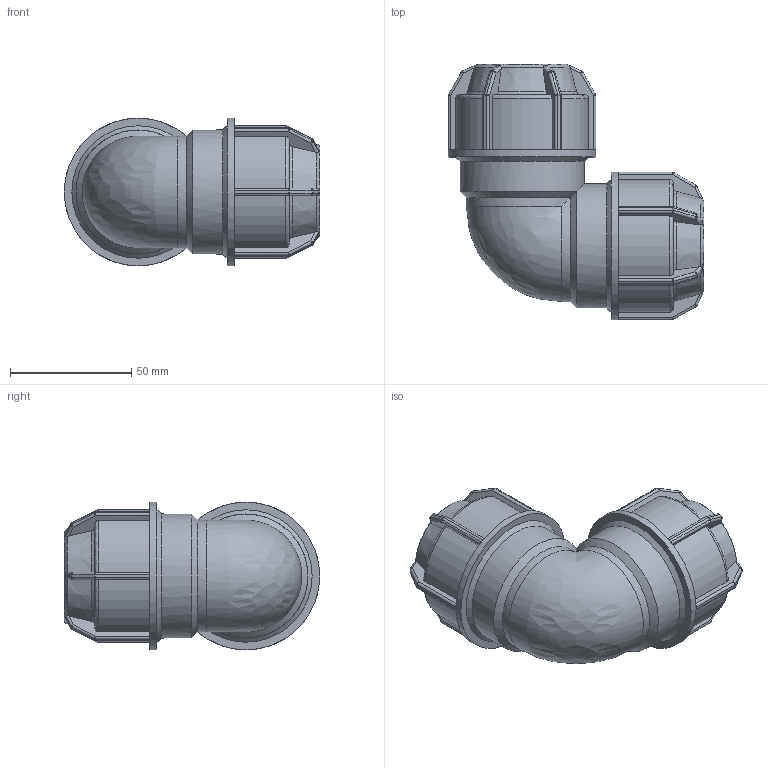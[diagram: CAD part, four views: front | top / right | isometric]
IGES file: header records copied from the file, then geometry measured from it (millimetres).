
Global section: file name: 140500032.ipt; native system: Autodesk Inventor 2015; preprocessor: unknown; author: KIM; date: 20180409.131041; units: millimetre
Bounding box: 105.5 x 105.5 x 61 mm (x, y, z)
Volume: 177072.6 mm3; surface area: 44507 mm2
Topology: 1 solids, 1 shells, 408 faces, 986 edges, 572 vertices
Faces by surface type: plane 194, cylinder 114, sphere 48, revolution 35, cone 16, bspline 1
Full cylindrical faces by diameter (mm): 51.2 x2, 61 x2
